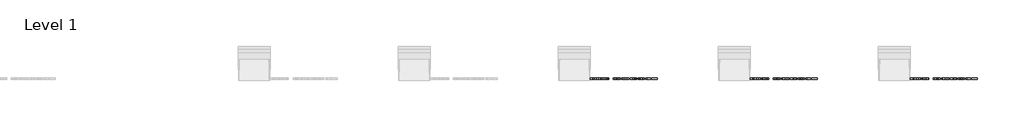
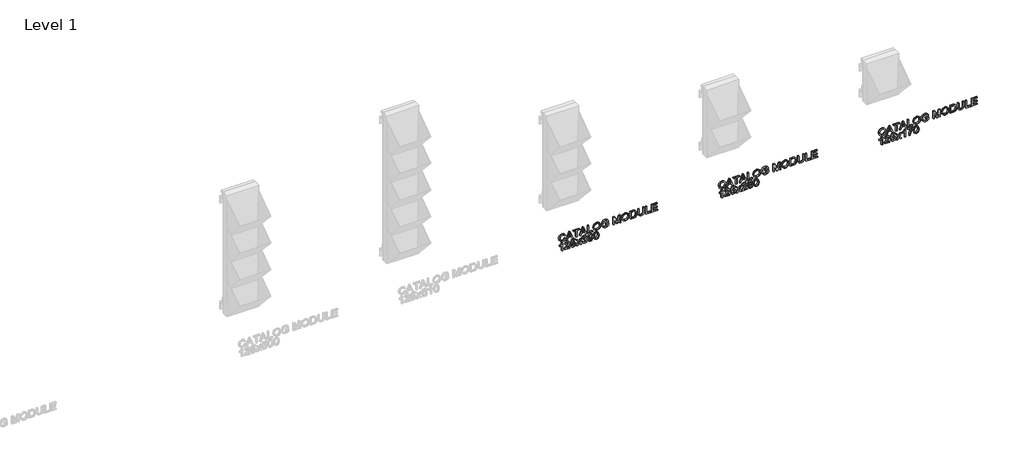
# One storey, part 5 of 5: 3 proxies.
"""IFC4 building model written with IfcOpenShell, lengths in millimetres."""

import ifcopenshell
import ifcopenshell.guid

model = None  # the IFC model being written
_history = None  # IfcOwnerHistory: only IFC2X3 demands one
_inside = {}  # id of a spatial element -> (the spatial element, [elements in it])
_under = {}  # id of a project, library or spatial element -> (it, [spatial elements below it])
_declared = {}  # id of a project -> (the project, [libraries it declares])
_typed = {}  # id of a type object -> (the type object, [elements of that type])
_made_of = {}  # id of a material, layer set ... -> (it, [elements and type objects made of it])


def new_model(schema):
    """Start an empty IFC model of exactly this schema.

    Asked for "IFC4X3", IfcOpenShell would pick the latest addendum, in which some entities
    have other attributes; the version numbers below select the first issue.
    IFC2X3 requires an IfcOwnerHistory on every rooted entity: one is made here for all.
    """
    global model, _history
    if schema == "IFC4X3":
        model = ifcopenshell.file(schema_version=(4, 3, 0, 0))
    else:
        model = ifcopenshell.file(schema=schema)
    _inside.clear()
    _under.clear()
    _declared.clear()
    _typed.clear()
    _made_of.clear()
    _history = None
    if model.schema == "IFC2X3":
        org = make("IfcOrganization", Name="unknown")
        user = make(
            "IfcPersonAndOrganization",
            ThePerson=make("IfcPerson", FamilyName="unknown"),
            TheOrganization=org,
        )
        app = make(
            "IfcApplication",
            ApplicationDeveloper=org,
            Version="unknown",
            ApplicationFullName="unknown",
            ApplicationIdentifier="unknown",
        )
        _history = make(
            "IfcOwnerHistory",
            OwningUser=user,
            OwningApplication=app,
            ChangeAction="ADDED",
            CreationDate=0,
        )
    return model


def make(cls, **values):
    """One entity of the class cls with the attributes given. An attribute that is None is left unset."""
    return model.create_entity(
        cls, **{name: value for name, value in values.items() if value is not None}
    )


def rooted(cls, **values):
    """An entity with a GlobalId (a new one), such as an element, a storey or a relation."""
    return make(cls, GlobalId=ifcopenshell.guid.new(), OwnerHistory=_history, **values)


def si_unit(unit_type, name, prefix=None):
    """IfcSIUnit, for example si_unit("LENGTHUNIT", "METRE", prefix="MILLI")."""
    return make("IfcSIUnit", UnitType=unit_type, Prefix=prefix, Name=name)


def assignment(units):
    """IfcUnitAssignment: the units of a project."""
    return None if units is None else make("IfcUnitAssignment", Units=units)


def point(xyz):
    """IfcCartesianPoint."""
    return None if xyz is None else make("IfcCartesianPoint", Coordinates=xyz)


def direction(xyz):
    """IfcDirection."""
    return None if xyz is None else make("IfcDirection", DirectionRatios=xyz)


def frame(location, z_axis=None, x_axis=None):
    """IfcAxis2Placement3D, a coordinate frame: its origin and axes. An axis left out is left unset."""
    return make(
        "IfcAxis2Placement3D",
        Location=point(location),
        Axis=direction(z_axis),
        RefDirection=direction(x_axis),
    )


def origin():
    """The frame at (0, 0, 0) with its axes left unset."""
    return frame((0.0, 0.0, 0.0))


def place(relative_to, where):
    """IfcLocalPlacement: puts the frame where relative to a parent placement (None: the world)."""
    return make(
        "IfcLocalPlacement", PlacementRelTo=relative_to, RelativePlacement=where
    )


def context(
    kind, dimensions, precision=None, world=None, true_north=None, identifier=None
):
    """IfcGeometricRepresentationContext, for example the 3D "Model" context."""
    return make(
        "IfcGeometricRepresentationContext",
        ContextIdentifier=identifier,
        ContextType=kind,
        CoordinateSpaceDimension=dimensions,
        Precision=precision,
        WorldCoordinateSystem=world,
        TrueNorth=true_north,
    )


def project(units=None, contexts=None):
    """IfcProject with its units and contexts."""
    return rooted(
        "IfcProject",
        Name="project",
        RepresentationContexts=contexts,
        UnitsInContext=assignment(units),
    )


def spatial(cls, under=None, at=None, **own):
    """A site, building, storey or space (cls), placed at a placement, below another one or the project."""
    s = rooted(cls, ObjectPlacement=at, **own)
    if under is not None:
        _under.setdefault(under.id(), (under, []))[1].append(s)
    return s


def polyline(points):
    """IfcPolyline through the points."""
    return make("IfcPolyline", Points=[point(p) for p in points])


def outline(outer, holes=None, kind="AREA"):
    """IfcArbitraryClosedProfileDef: a profile drawn as a closed curve; with holes, ...WithVoids."""
    if holes is None:
        return make("IfcArbitraryClosedProfileDef", ProfileType=kind, OuterCurve=outer)
    return make(
        "IfcArbitraryProfileDefWithVoids",
        ProfileType=kind,
        OuterCurve=outer,
        InnerCurves=holes,
    )


def extrude(swept, where, along, depth):
    """IfcExtrudedAreaSolid: the profile swept, set in the frame where, extruded along a direction by depth."""
    return make(
        "IfcExtrudedAreaSolid",
        SweptArea=swept,
        Position=where,
        ExtrudedDirection=direction(along),
        Depth=depth,
    )


def shape(context_of_items, identifier, shape_type, items):
    """IfcShapeRepresentation: the items that make up one representation, for example the "Body"."""
    return make(
        "IfcShapeRepresentation",
        ContextOfItems=context_of_items,
        RepresentationIdentifier=identifier,
        RepresentationType=shape_type,
        Items=items,
    )


def made_of(thing, what):
    """Note that an element or type object is made of a material, layer set ...; save() writes the relation."""
    if what is not None:
        _made_of.setdefault(what.id(), (what, []))[1].append(thing)
    return thing


def element(
    cls,
    number,
    at=None,
    inside=None,
    cuts=None,
    type_object=None,
    material=None,
    context=None,
    identifier="Body",
    shape_type=None,
    held_by="IfcProductDefinitionShape",
    body=None,
    shapes=None,
    **own,
):
    """One element of the class cls, such as IfcWall. Its Tag is "e" and its number.

    at: its placement. inside: the storey or other place that contains it. cuts: it is an
    opening in that element (IfcRelVoidsElement). A single representation is given by context,
    identifier, shape_type and body (its items); several are given by shapes. held_by: the class
    of the entity that holds the representations. save() writes the other relations.
    """
    e = rooted(cls, Tag="e%d" % number, ObjectPlacement=at, **own)
    if body is not None:
        shapes = [shape(context, identifier, shape_type, body)]
    if shapes is not None:
        e.Representation = make(held_by, Representations=shapes)
    if inside is not None:
        _inside.setdefault(inside.id(), (inside, []))[1].append(e)
    if cuts is not None:
        rooted(
            "IfcRelVoidsElement", RelatingBuildingElement=cuts, RelatedOpeningElement=e
        )
    if type_object is not None:
        _typed.setdefault(type_object.id(), (type_object, []))[1].append(e)
    return made_of(e, material)


def aggregate(whole, parts):
    """IfcRelAggregates: a whole, such as a stair, and the parts it consists of."""
    return rooted("IfcRelAggregates", RelatingObject=whole, RelatedObjects=parts)


def save(model, path):
    """Write the relations noted so far, then the file.

    IfcRelAggregates (storeys below a building ...), IfcRelContainedInSpatialStructure (elements
    in a storey), IfcRelDefinesByType, IfcRelAssociatesMaterial and IfcRelDeclares: one each for
    every whole, place, type object, material and project.
    """
    for whole, parts in _under.values():
        aggregate(whole, parts)
    for where, things in _inside.values():
        rooted(
            "IfcRelContainedInSpatialStructure",
            RelatedElements=things,
            RelatingStructure=where,
        )
    for kind, things in _typed.values():
        rooted("IfcRelDefinesByType", RelatedObjects=things, RelatingType=kind)
    for what, things in _made_of.values():
        rooted("IfcRelAssociatesMaterial", RelatedObjects=things, RelatingMaterial=what)
    for by, libraries in _declared.values():
        rooted("IfcRelDeclares", RelatingContext=by, RelatedDefinitions=libraries)
    model.write(path)


model = new_model("IFC4")

# Units and contexts
model_context = context("Model", 3, world=origin())
ifc_project = project(units=[si_unit("LENGTHUNIT", "METRE", prefix="MILLI")], contexts=[model_context])

# Site, building, storey
site = spatial("IfcSite", under=ifc_project)
building = spatial("IfcBuilding", under=site)
storey = spatial("IfcBuildingStorey", under=building, Name="Level 1", Elevation=0.0)

# Proxies
placement = place(None, origin())
element("IfcBuildingElementProxy", 1, Name="30mm Arial", ObjectType="30mm Arial", at=placement, inside=storey, context=model_context, shape_type="SweptSolid", body=[
    extrude(outline(polyline([(-74.1059821, 4612.4481324), (-79.6536426, 4609.2512379), (-81.5224832, 4603.486527), (-80.1502833, 4598.2883544), (-76.0042532, 4594.7493296), (-69.5148148, 4593.6125743), (-63.9156509, 4594.5727463), (-59.5893586, 4597.9020783), (-57.9780355, 4603.7955479), (-59.4311694, 4608.8870347), (-64.0628037, 4611.9772435), (-63.1651716, 4615.7443551), (-56.558011, 4611.4879604), (-54.2109238, 4603.9427007), (-56.0245821, 4596.702783), (-61.3331193, 4591.6296903), (-69.5221725, 4589.8454626), (-77.5787882, 4591.4236764), (-83.3103897, 4596.0222013), (-85.2895948, 4603.8617667), (-82.6739538, 4611.7491566), (-75.0771906, 4616.215244), (-74.1059821, 4612.4481324)])), frame((0.0, -152.7156773, 0.0), z_axis=(0.0, 1.0, 0.0), x_axis=(0.0, 0.0, 1.0)), (0.0, 0.0, 1.0), 5.0),
    extrude(outline(polyline([(-84.8187058, 4617.8854283), (-84.8187058, 4621.8659115), (-75.4009268, 4625.309287), (-75.4009268, 4637.7216255), (-84.8187058, 4641.1723586), (-84.8187058, 4645.1528418), (-54.6818128, 4633.1231005), (-54.6818128, 4629.9151696), (-84.8187058, 4617.8854283)]), holes=[polyline([(-71.6338151, 4626.6925233), (-63.5771994, 4629.6429369), (-58.4489244, 4631.519135), (-64.2246718, 4633.6307777), (-71.6338151, 4636.3457468), (-71.6338151, 4626.6925233)])]), frame((0.0, -152.7156773, 0.0), z_axis=(0.0, 1.0, 0.0), x_axis=(0.0, 0.0, 1.0)), (0.0, 0.0, 1.0), 5.0),
    extrude(outline(polyline([(-84.8187058, 4656.7116941), (-84.8187058, 4660.4788057), (-58.4489244, 4660.4788057), (-58.4489244, 4670.3674737), (-54.6818128, 4670.3674737), (-54.6818128, 4646.823026), (-58.4489244, 4646.823026), (-58.4489244, 4656.7116941), (-84.8187058, 4656.7116941)])), frame((0.0, -152.7156773, 0.0), z_axis=(0.0, 1.0, 0.0), x_axis=(0.0, 0.0, 1.0)), (0.0, 0.0, 1.0), 5.0),
    extrude(outline(polyline([(-84.8187058, 4671.0958801), (-84.8187058, 4675.0763633), (-75.4009268, 4678.5197388), (-75.4009268, 4690.9320773), (-84.8187058, 4694.3828104), (-84.8187058, 4698.3632936), (-54.6818128, 4686.3335523), (-54.6818128, 4683.1256213), (-84.8187058, 4671.0958801)]), holes=[polyline([(-71.6338151, 4679.9029751), (-63.5771994, 4682.8533887), (-58.4489244, 4684.7295868), (-64.2246718, 4686.8412295), (-71.6338151, 4689.5561986), (-71.6338151, 4679.9029751)])]), frame((0.0, -152.7156773, 0.0), z_axis=(0.0, 1.0, 0.0), x_axis=(0.0, 0.0, 1.0)), (0.0, 0.0, 1.0), 5.0),
    extrude(outline(polyline([(-84.8187058, 4702.3879226), (-84.8187058, 4721.2234808), (-81.0515942, 4721.2234808), (-81.0515942, 4706.1550342), (-54.6818128, 4706.1550342), (-54.6818128, 4702.3879226), (-84.8187058, 4702.3879226)])), frame((0.0, -152.7156773, 0.0), z_axis=(0.0, 1.0, 0.0), x_axis=(0.0, 0.0, 1.0)), (0.0, 0.0, 1.0), 5.0),
    extrude(outline(polyline([(-70.1475719, 4724.0488145), (-77.6486858, 4725.7705022), (-83.2404921, 4730.8325585), (-85.2895948, 4738.4109276), (-83.4354695, 4745.7060275), (-77.9761007, 4750.9299519), (-69.8017628, 4752.7730407), (-61.7377895, 4751.0219224), (-56.1974866, 4745.9304355), (-54.2109238, 4738.4330005), (-58.4415668, 4728.0660859), (-70.1475719, 4724.0488145)]), holes=[polyline([(-70.1843601, 4727.8159261), (-60.7923327, 4730.9576383), (-57.9780355, 4738.4550734), (-59.438527, 4743.9843398), (-63.5551265, 4747.7256997), (-69.7723322, 4749.005929), (-78.461705, 4746.0150484), (-81.5224832, 4738.3888546), (-78.4911355, 4730.8288796), (-70.1843601, 4727.8159261)])]), frame((0.0, -152.7156773, 0.0), z_axis=(0.0, 1.0, 0.0), x_axis=(0.0, 0.0, 1.0)), (0.0, 0.0, 1.0), 5.0),
    extrude(outline(polyline([(-73.046482, 4772.0794878), (-73.046482, 4780.5554889), (-78.4911355, 4780.5554889), (-80.5549535, 4776.7405526), (-81.5224832, 4771.5865259), (-80.238575, 4765.8438879), (-76.3095953, 4761.7236096), (-69.7429017, 4760.3072639), (-63.8273592, 4761.4844863), (-60.9247703, 4763.4232244), (-58.7910547, 4766.7047318), (-57.9780355, 4771.5276648), (-58.7321936, 4775.7619865), (-60.7408293, 4778.6976849), (-64.2246718, 4780.4156938), (-63.2461056, 4783.8884998), (-58.2613046, 4781.6113103), (-55.2814605, 4777.4799955), (-54.2109238, 4771.5865259), (-56.0576915, 4763.6549901), (-61.7046801, 4758.3758834), (-69.8974121, 4756.5401523), (-77.909882, 4758.3832411), (-83.3950025, 4763.8426099), (-85.2895948, 4771.8881891), (-84.0976571, 4778.2782994), (-80.5439171, 4784.3226006), (-69.2793704, 4784.3226006), (-69.2793704, 4772.0794878), (-73.046482, 4772.0794878)])), frame((0.0, -152.7156773, 0.0), z_axis=(0.0, 1.0, 0.0), x_axis=(0.0, 0.0, 1.0)), (0.0, 0.0, 1.0), 5.0),
    extrude(outline(polyline([(-84.8187058, 4802.2163808), (-84.8187058, 4805.9834924), (-58.4489244, 4805.9834924), (-84.8187058, 4813.5545039), (-84.8187058, 4818.660706), (-58.4489244, 4826.2317175), (-84.8187058, 4826.2317175), (-84.8187058, 4829.9988291), (-54.6818128, 4829.9988291), (-54.6818128, 4823.5167483), (-75.5554372, 4817.4540531), (-80.3599761, 4816.1076049), (-75.9233192, 4814.8641638), (-54.6818128, 4808.6984616), (-54.6818128, 4802.2163808), (-84.8187058, 4802.2163808)])), frame((0.0, -152.7156773, 0.0), z_axis=(0.0, 1.0, 0.0), x_axis=(0.0, 0.0, 1.0)), (0.0, 0.0, 1.0), 5.0),
    extrude(outline(polyline([(-70.1475719, 4835.1786076), (-77.6486858, 4836.9002953), (-83.2404921, 4841.9623516), (-85.2895948, 4849.5407207), (-83.4354695, 4856.8358206), (-77.9761007, 4862.059745), (-69.8017628, 4863.9028338), (-61.7377895, 4862.1517155), (-56.1974866, 4857.0602287), (-54.2109238, 4849.5627936), (-58.4415668, 4839.195879), (-70.1475719, 4835.1786076)]), holes=[polyline([(-70.1843601, 4838.9457192), (-60.7923327, 4842.0874314), (-57.9780355, 4849.5848665), (-59.438527, 4855.1141329), (-63.5551265, 4858.8554928), (-69.7723322, 4860.1357221), (-78.461705, 4857.1448415), (-81.5224832, 4849.5186478), (-78.4911355, 4841.9586727), (-70.1843601, 4838.9457192)])]), frame((0.0, -152.7156773, 0.0), z_axis=(0.0, 1.0, 0.0), x_axis=(0.0, 0.0, 1.0)), (0.0, 0.0, 1.0), 5.0),
    extrude(outline(polyline([(-84.8187058, 4869.0826123), (-84.8187058, 4879.979277), (-84.3036711, 4884.8242828), (-82.7916761, 4888.4258476), (-80.0583128, 4891.1776049), (-75.6694806, 4893.2377441), (-69.5883912, 4894.0397268), (-62.42205, 4892.8551468), (-57.271702, 4889.2866914), (-55.1159136, 4884.8573922), (-54.6818128, 4879.4789574), (-54.6818128, 4869.0826123), (-84.8187058, 4869.0826123)]), holes=[polyline([(-81.0515942, 4872.8497239), (-58.4489244, 4872.8497239), (-58.4489244, 4879.4127387), (-59.0522509, 4884.7543852), (-62.3926194, 4888.6649709), (-69.5295301, 4890.2726152), (-75.2280222, 4889.4522383), (-78.9693821, 4887.1603335), (-80.5071289, 4884.3644303), (-81.0515942, 4879.5157456), (-81.0515942, 4872.8497239)])]), frame((0.0, -152.7156773, 0.0), z_axis=(0.0, 1.0, 0.0), x_axis=(0.0, 0.0, 1.0)), (0.0, 0.0, 1.0), 5.0),
    extrude(outline(polyline([(-54.6818128, 4918.9968414), (-71.9354784, 4918.9968414), (-79.543278, 4917.0912126), (-81.5224832, 4910.7121388), (-80.5218441, 4906.2828396), (-77.6781163, 4903.7297386), (-71.9354784, 4902.9866169), (-54.6818128, 4902.9866169), (-54.6818128, 4899.2195053), (-72.0679159, 4899.2195053), (-79.6131756, 4900.3636183), (-83.8327821, 4904.1822334), (-85.2895948, 4911.0653055), (-83.6157317, 4918.0550635), (-79.2747242, 4921.741241), (-72.0679159, 4922.763953), (-54.6818128, 4922.763953), (-54.6818128, 4918.9968414)])), frame((0.0, -152.7156773, 0.0), z_axis=(0.0, 1.0, 0.0), x_axis=(0.0, 0.0, 1.0)), (0.0, 0.0, 1.0), 5.0),
    extrude(outline(polyline([(-84.8187058, 4929.3563983), (-84.8187058, 4948.1919565), (-81.0515942, 4948.1919565), (-81.0515942, 4933.12351), (-54.6818128, 4933.12351), (-54.6818128, 4929.3563983), (-84.8187058, 4929.3563983)])), frame((0.0, -152.7156773, 0.0), z_axis=(0.0, 1.0, 0.0), x_axis=(0.0, 0.0, 1.0)), (0.0, 0.0, 1.0), 5.0),
    extrude(outline(polyline([(-84.8187058, 4952.4299571), (-84.8187058, 4974.5617379), (-81.0515942, 4974.5617379), (-81.0515942, 4956.1970687), (-71.1629262, 4956.1970687), (-71.1629262, 4973.149071), (-67.3958146, 4973.149071), (-67.3958146, 4956.1970687), (-58.4489244, 4956.1970687), (-58.4489244, 4974.090849), (-54.6818128, 4974.090849), (-54.6818128, 4952.4299571), (-84.8187058, 4952.4299571)])), frame((0.0, -152.7156773, 0.0), z_axis=(0.0, 1.0, 0.0), x_axis=(0.0, 0.0, 1.0)), (0.0, 0.0, 1.0), 5.0),
    extrude(outline(polyline([(-121.4111512, 4603.9721313), (-91.2742582, 4603.9721313), (-91.2742582, 4601.5441101), (-95.2841719, 4598.1927051), (-98.8084814, 4592.6707964), (-102.3695791, 4592.6707964), (-100.4676292, 4596.6365643), (-97.9255646, 4600.2050196), (-121.4111512, 4600.2050196), (-121.4111512, 4603.9721313)])), frame((0.0, -152.7156773, 0.0), z_axis=(0.0, 1.0, 0.0), x_axis=(0.0, 0.0, 1.0)), (0.0, 0.0, 1.0), 5.0),
    extrude(outline(polyline([(-117.6440396, 4632.2254685), (-117.6440396, 4617.4292546), (-115.7273744, 4619.1288695), (-112.1037367, 4623.4625194), (-106.9423523, 4628.8593482), (-103.2488171, 4631.0850343), (-99.6766829, 4631.7545795), (-93.687564, 4629.2713761), (-91.2742582, 4622.5280991), (-93.4447619, 4615.806895), (-99.7502593, 4612.9190214), (-100.2211483, 4616.686133), (-96.4172484, 4618.2717044), (-95.0413698, 4622.447165), (-96.4503578, 4626.4534), (-99.9047698, 4627.9874679), (-104.1722009, 4626.3614295), (-110.4482677, 4619.8572758), (-114.815027, 4615.1410286), (-118.8139043, 4612.8528026), (-121.4111512, 4612.4481324), (-121.4111512, 4632.2254685), (-117.6440396, 4632.2254685)])), frame((0.0, -152.7156773, 0.0), z_axis=(0.0, 1.0, 0.0), x_axis=(0.0, 0.0, 1.0)), (0.0, 0.0, 1.0), 5.0),
    extrude(outline(polyline([(-113.406039, 4635.9925801), (-119.5607048, 4638.9319573), (-121.8820402, 4645.5795849), (-118.269439, 4653.4081138), (-111.2796811, 4655.7699162), (-104.334069, 4653.1469175), (-101.6338151, 4646.7053038), (-103.8116766, 4641.1944315), (-95.5122587, 4642.8057547), (-95.5122587, 4654.3572493), (-91.7451471, 4654.3572493), (-91.7451471, 4639.7596917), (-107.2844826, 4636.4634691), (-107.7553715, 4640.2305807), (-106.0557567, 4642.3459022), (-105.4009268, 4645.6531613), (-107.0416805, 4650.4245908), (-111.5151255, 4652.0028045), (-116.3086279, 4650.317905), (-118.1149285, 4645.5943002), (-116.8163051, 4641.6579628), (-112.93515, 4639.7596917), (-113.406039, 4635.9925801)])), frame((0.0, -152.7156773, 0.0), z_axis=(0.0, 1.0, 0.0), x_axis=(0.0, 0.0, 1.0)), (0.0, 0.0, 1.0), 5.0),
    extrude(outline(polyline([(-121.4111512, 4657.653472), (-121.4111512, 4662.1857782), (-114.7230565, 4668.7561506), (-121.4111512, 4673.3693908), (-121.4111512, 4677.901697), (-110.2863997, 4670.2350362), (-99.2793704, 4678.1960026), (-99.2793704, 4673.6636964), (-105.0330448, 4669.4992722), (-107.0784687, 4668.0203866), (-104.5768711, 4666.3134142), (-99.2793704, 4662.6566671), (-99.2793704, 4658.1243609), (-110.2863997, 4665.70273), (-121.4111512, 4657.653472)])), frame((0.0, -152.7156773, 0.0), z_axis=(0.0, 1.0, 0.0), x_axis=(0.0, 0.0, 1.0)), (0.0, 0.0, 1.0), 5.0),
    extrude(outline(polyline([(-113.406039, 4680.2561418), (-119.5202377, 4683.2507012), (-121.8820402, 4689.8578618), (-119.1155675, 4697.149283), (-112.3759694, 4700.0334778), (-107.4757812, 4698.5913804), (-104.9006073, 4694.4858173), (-102.4063673, 4697.5760261), (-98.9335613, 4698.620811), (-95.1333403, 4697.5208438), (-92.3080066, 4694.3423434), (-91.2742582, 4689.7990007), (-93.3711855, 4683.8098818), (-99.2793704, 4680.7270307), (-99.7502593, 4684.4941424), (-96.2185922, 4686.34091), (-95.0413698, 4689.9314382), (-96.2075557, 4693.4778207), (-99.1542905, 4694.8536993), (-102.4799437, 4692.9554282), (-103.517371, 4688.077313), (-107.2844826, 4687.6579275), (-106.8724548, 4690.2993202), (-108.4138803, 4694.5814667), (-112.3097506, 4696.2663662), (-116.4447443, 4694.5667514), (-118.1149285, 4689.9902994), (-116.9009179, 4686.1017867), (-112.93515, 4684.0232534), (-113.406039, 4680.2561418)])), frame((0.0, -152.7156773, 0.0), z_axis=(0.0, 1.0, 0.0), x_axis=(0.0, 0.0, 1.0)), (0.0, 0.0, 1.0), 5.0),
    extrude(outline(polyline([(-113.8769279, 4703.8005895), (-119.781434, 4706.5008433), (-121.8820402, 4712.2913059), (-120.1014913, 4718.1075203), (-114.918034, 4721.8488801), (-105.7688088, 4723.1070366), (-97.3369534, 4721.8452013), (-92.8487931, 4718.1516661), (-91.2742582, 4712.7842678), (-94.0333731, 4706.0262755), (-101.3174366, 4703.3297005), (-108.3734133, 4705.9011957), (-111.0515942, 4712.1956566), (-109.9553059, 4716.3269714), (-107.8363056, 4719.3619979), (-112.2067437, 4718.8175325), (-115.4808934, 4717.5851278), (-117.3975586, 4715.517631), (-118.1149285, 4712.4678893), (-117.0002461, 4709.2599583), (-113.406039, 4707.5677011), (-113.8769279, 4703.8005895)]), holes=[polyline([(-101.2291449, 4719.3399249), (-105.6768383, 4717.6366313), (-107.2844826, 4713.2919449), (-105.6768383, 4708.7669964), (-101.5013776, 4707.0968121), (-96.8403127, 4708.8626457), (-95.0413698, 4713.3949519), (-96.711554, 4717.7138865), (-101.2291449, 4719.3399249)])]), frame((0.0, -152.7156773, 0.0), z_axis=(0.0, 1.0, 0.0), x_axis=(0.0, 0.0, 1.0)), (0.0, 0.0, 1.0), 5.0),
    extrude(outline(polyline([(-106.5855068, 4726.4032592), (-119.0125606, 4729.4051763), (-121.8820402, 4736.2919273), (-120.23025, 4741.8064784), (-115.2196972, 4745.084307), (-106.5855068, 4746.1805953), (-99.5037784, 4745.4963348), (-95.0450486, 4743.7305012), (-92.2454666, 4740.6917959), (-91.2742582, 4736.2919273), (-92.9150119, 4730.7994491), (-97.9145282, 4727.5105841), (-106.5855068, 4726.4032592)]), holes=[polyline([(-106.5781492, 4730.1703709), (-97.0573631, 4731.9950656), (-95.0413698, 4736.2477814), (-97.3295958, 4740.7065112), (-106.5781492, 4742.4134837), (-115.9260307, 4740.6476501), (-118.1149285, 4736.2919273), (-115.9333883, 4731.9362045), (-106.5781492, 4730.1703709)])]), frame((0.0, -152.7156773, 0.0), z_axis=(0.0, 1.0, 0.0), x_axis=(0.0, 0.0, 1.0)), (0.0, 0.0, 1.0), 5.0),
])
element("IfcBuildingElementProxy", 2, Name="30mm Arial", ObjectType="30mm Arial", at=placement, inside=storey, context=model_context, shape_type="SweptSolid", body=[
    extrude(outline(polyline([(-74.1059821, 5237.4481324), (-79.6536426, 5234.2512379), (-81.5224832, 5228.486527), (-80.1502833, 5223.2883544), (-76.0042532, 5219.7493296), (-69.5148148, 5218.6125743), (-63.9156509, 5219.5727463), (-59.5893586, 5222.9020783), (-57.9780355, 5228.7955479), (-59.4311694, 5233.8870347), (-64.0628037, 5236.9772435), (-63.1651716, 5240.7443551), (-56.558011, 5236.4879604), (-54.2109238, 5228.9427007), (-56.0245821, 5221.702783), (-61.3331193, 5216.6296903), (-69.5221725, 5214.8454626), (-77.5787882, 5216.4236764), (-83.3103897, 5221.0222013), (-85.2895948, 5228.8617667), (-82.6739538, 5236.7491566), (-75.0771906, 5241.215244), (-74.1059821, 5237.4481324)])), frame((0.0, -152.7156773, 0.0), z_axis=(0.0, 1.0, 0.0), x_axis=(0.0, 0.0, 1.0)), (0.0, 0.0, 1.0), 5.0),
    extrude(outline(polyline([(-84.8187058, 5242.8854283), (-84.8187058, 5246.8659115), (-75.4009268, 5250.309287), (-75.4009268, 5262.7216255), (-84.8187058, 5266.1723586), (-84.8187058, 5270.1528418), (-54.6818128, 5258.1231005), (-54.6818128, 5254.9151695), (-84.8187058, 5242.8854283)]), holes=[polyline([(-71.6338151, 5251.6925233), (-63.5771994, 5254.6429369), (-58.4489244, 5256.519135), (-64.2246718, 5258.6307777), (-71.6338151, 5261.3457468), (-71.6338151, 5251.6925233)])]), frame((0.0, -152.7156773, 0.0), z_axis=(0.0, 1.0, 0.0), x_axis=(0.0, 0.0, 1.0)), (0.0, 0.0, 1.0), 5.0),
    extrude(outline(polyline([(-84.8187058, 5281.7116941), (-84.8187058, 5285.4788057), (-58.4489244, 5285.4788057), (-58.4489244, 5295.3674737), (-54.6818128, 5295.3674737), (-54.6818128, 5271.823026), (-58.4489244, 5271.823026), (-58.4489244, 5281.7116941), (-84.8187058, 5281.7116941)])), frame((0.0, -152.7156773, 0.0), z_axis=(0.0, 1.0, 0.0), x_axis=(0.0, 0.0, 1.0)), (0.0, 0.0, 1.0), 5.0),
    extrude(outline(polyline([(-84.8187058, 5296.0958801), (-84.8187058, 5300.0763633), (-75.4009268, 5303.5197388), (-75.4009268, 5315.9320773), (-84.8187058, 5319.3828104), (-84.8187058, 5323.3632936), (-54.6818128, 5311.3335523), (-54.6818128, 5308.1256213), (-84.8187058, 5296.0958801)]), holes=[polyline([(-71.6338151, 5304.9029751), (-63.5771994, 5307.8533887), (-58.4489244, 5309.7295868), (-64.2246718, 5311.8412295), (-71.6338151, 5314.5561986), (-71.6338151, 5304.9029751)])]), frame((0.0, -152.7156773, 0.0), z_axis=(0.0, 1.0, 0.0), x_axis=(0.0, 0.0, 1.0)), (0.0, 0.0, 1.0), 5.0),
    extrude(outline(polyline([(-84.8187058, 5327.3879226), (-84.8187058, 5346.2234808), (-81.0515942, 5346.2234808), (-81.0515942, 5331.1550342), (-54.6818128, 5331.1550342), (-54.6818128, 5327.3879226), (-84.8187058, 5327.3879226)])), frame((0.0, -152.7156773, 0.0), z_axis=(0.0, 1.0, 0.0), x_axis=(0.0, 0.0, 1.0)), (0.0, 0.0, 1.0), 5.0),
    extrude(outline(polyline([(-70.1475719, 5349.0488145), (-77.6486858, 5350.7705022), (-83.2404921, 5355.8325585), (-85.2895948, 5363.4109276), (-83.4354695, 5370.7060275), (-77.9761007, 5375.9299519), (-69.8017628, 5377.7730407), (-61.7377895, 5376.0219224), (-56.1974866, 5370.9304355), (-54.2109238, 5363.4330005), (-58.4415668, 5353.0660859), (-70.1475719, 5349.0488145)]), holes=[polyline([(-70.1843601, 5352.8159261), (-60.7923327, 5355.9576383), (-57.9780355, 5363.4550734), (-59.438527, 5368.9843398), (-63.5551265, 5372.7256997), (-69.7723322, 5374.005929), (-78.461705, 5371.0150484), (-81.5224832, 5363.3888546), (-78.4911355, 5355.8288796), (-70.1843601, 5352.8159261)])]), frame((0.0, -152.7156773, 0.0), z_axis=(0.0, 1.0, 0.0), x_axis=(0.0, 0.0, 1.0)), (0.0, 0.0, 1.0), 5.0),
    extrude(outline(polyline([(-73.046482, 5397.0794878), (-73.046482, 5405.5554889), (-78.4911355, 5405.5554889), (-80.5549535, 5401.7405526), (-81.5224832, 5396.5865259), (-80.238575, 5390.8438879), (-76.3095953, 5386.7236096), (-69.7429017, 5385.3072639), (-63.8273592, 5386.4844863), (-60.9247703, 5388.4232244), (-58.7910547, 5391.7047318), (-57.9780355, 5396.5276648), (-58.7321936, 5400.7619865), (-60.7408293, 5403.6976849), (-64.2246718, 5405.4156938), (-63.2461056, 5408.8884998), (-58.2613046, 5406.6113103), (-55.2814605, 5402.4799955), (-54.2109238, 5396.5865259), (-56.0576915, 5388.6549901), (-61.7046801, 5383.3758834), (-69.8974121, 5381.5401523), (-77.909882, 5383.3832411), (-83.3950025, 5388.8426099), (-85.2895948, 5396.8881891), (-84.0976571, 5403.2782994), (-80.5439171, 5409.3226006), (-69.2793704, 5409.3226006), (-69.2793704, 5397.0794878), (-73.046482, 5397.0794878)])), frame((0.0, -152.7156773, 0.0), z_axis=(0.0, 1.0, 0.0), x_axis=(0.0, 0.0, 1.0)), (0.0, 0.0, 1.0), 5.0),
    extrude(outline(polyline([(-84.8187058, 5427.2163808), (-84.8187058, 5430.9834924), (-58.4489244, 5430.9834924), (-84.8187058, 5438.5545039), (-84.8187058, 5443.660706), (-58.4489244, 5451.2317175), (-84.8187058, 5451.2317175), (-84.8187058, 5454.9988291), (-54.6818128, 5454.9988291), (-54.6818128, 5448.5167483), (-75.5554372, 5442.4540531), (-80.3599761, 5441.1076049), (-75.9233192, 5439.8641638), (-54.6818128, 5433.6984616), (-54.6818128, 5427.2163808), (-84.8187058, 5427.2163808)])), frame((0.0, -152.7156773, 0.0), z_axis=(0.0, 1.0, 0.0), x_axis=(0.0, 0.0, 1.0)), (0.0, 0.0, 1.0), 5.0),
    extrude(outline(polyline([(-70.1475719, 5460.1786076), (-77.6486858, 5461.9002953), (-83.2404921, 5466.9623516), (-85.2895948, 5474.5407207), (-83.4354695, 5481.8358206), (-77.9761007, 5487.059745), (-69.8017628, 5488.9028338), (-61.7377895, 5487.1517155), (-56.1974866, 5482.0602287), (-54.2109238, 5474.5627936), (-58.4415668, 5464.195879), (-70.1475719, 5460.1786076)]), holes=[polyline([(-70.1843601, 5463.9457192), (-60.7923327, 5467.0874314), (-57.9780355, 5474.5848665), (-59.438527, 5480.1141329), (-63.5551265, 5483.8554928), (-69.7723322, 5485.1357221), (-78.461705, 5482.1448415), (-81.5224832, 5474.5186478), (-78.4911355, 5466.9586727), (-70.1843601, 5463.9457192)])]), frame((0.0, -152.7156773, 0.0), z_axis=(0.0, 1.0, 0.0), x_axis=(0.0, 0.0, 1.0)), (0.0, 0.0, 1.0), 5.0),
    extrude(outline(polyline([(-84.8187058, 5494.0826123), (-84.8187058, 5504.979277), (-84.3036711, 5509.8242828), (-82.7916761, 5513.4258476), (-80.0583128, 5516.1776049), (-75.6694806, 5518.2377441), (-69.5883912, 5519.0397268), (-62.42205, 5517.8551468), (-57.271702, 5514.2866914), (-55.1159136, 5509.8573922), (-54.6818128, 5504.4789574), (-54.6818128, 5494.0826123), (-84.8187058, 5494.0826123)]), holes=[polyline([(-81.0515942, 5497.8497239), (-58.4489244, 5497.8497239), (-58.4489244, 5504.4127387), (-59.0522509, 5509.7543852), (-62.3926194, 5513.6649709), (-69.5295301, 5515.2726152), (-75.2280222, 5514.4522383), (-78.9693821, 5512.1603335), (-80.5071289, 5509.3644303), (-81.0515942, 5504.5157456), (-81.0515942, 5497.8497239)])]), frame((0.0, -152.7156773, 0.0), z_axis=(0.0, 1.0, 0.0), x_axis=(0.0, 0.0, 1.0)), (0.0, 0.0, 1.0), 5.0),
    extrude(outline(polyline([(-54.6818128, 5543.9968414), (-71.9354784, 5543.9968414), (-79.543278, 5542.0912126), (-81.5224832, 5535.7121388), (-80.5218441, 5531.2828396), (-77.6781163, 5528.7297386), (-71.9354784, 5527.9866169), (-54.6818128, 5527.9866169), (-54.6818128, 5524.2195053), (-72.0679159, 5524.2195053), (-79.6131756, 5525.3636183), (-83.8327821, 5529.1822334), (-85.2895948, 5536.0653055), (-83.6157317, 5543.0550635), (-79.2747242, 5546.741241), (-72.0679159, 5547.763953), (-54.6818128, 5547.763953), (-54.6818128, 5543.9968414)])), frame((0.0, -152.7156773, 0.0), z_axis=(0.0, 1.0, 0.0), x_axis=(0.0, 0.0, 1.0)), (0.0, 0.0, 1.0), 5.0),
    extrude(outline(polyline([(-84.8187058, 5554.3563983), (-84.8187058, 5573.1919565), (-81.0515942, 5573.1919565), (-81.0515942, 5558.12351), (-54.6818128, 5558.12351), (-54.6818128, 5554.3563983), (-84.8187058, 5554.3563983)])), frame((0.0, -152.7156773, 0.0), z_axis=(0.0, 1.0, 0.0), x_axis=(0.0, 0.0, 1.0)), (0.0, 0.0, 1.0), 5.0),
    extrude(outline(polyline([(-84.8187058, 5577.4299571), (-84.8187058, 5599.5617379), (-81.0515942, 5599.5617379), (-81.0515942, 5581.1970687), (-71.1629262, 5581.1970687), (-71.1629262, 5598.149071), (-67.3958146, 5598.149071), (-67.3958146, 5581.1970687), (-58.4489244, 5581.1970687), (-58.4489244, 5599.090849), (-54.6818128, 5599.090849), (-54.6818128, 5577.4299571), (-84.8187058, 5577.4299571)])), frame((0.0, -152.7156773, 0.0), z_axis=(0.0, 1.0, 0.0), x_axis=(0.0, 0.0, 1.0)), (0.0, 0.0, 1.0), 5.0),
    extrude(outline(polyline([(-121.4111512, 5228.9721313), (-91.2742582, 5228.9721313), (-91.2742582, 5226.5441101), (-95.2841719, 5223.1927051), (-98.8084814, 5217.6707964), (-102.3695791, 5217.6707964), (-100.4676292, 5221.6365643), (-97.9255646, 5225.2050196), (-121.4111512, 5225.2050196), (-121.4111512, 5228.9721313)])), frame((0.0, -152.7156773, 0.0), z_axis=(0.0, 1.0, 0.0), x_axis=(0.0, 0.0, 1.0)), (0.0, 0.0, 1.0), 5.0),
    extrude(outline(polyline([(-117.6440396, 5257.2254685), (-117.6440396, 5242.4292546), (-115.7273744, 5244.1288695), (-112.1037367, 5248.4625194), (-106.9423523, 5253.8593482), (-103.2488171, 5256.0850343), (-99.6766829, 5256.7545795), (-93.687564, 5254.2713761), (-91.2742582, 5247.5280991), (-93.4447619, 5240.806895), (-99.7502593, 5237.9190214), (-100.2211483, 5241.686133), (-96.4172484, 5243.2717044), (-95.0413698, 5247.447165), (-96.4503578, 5251.4534), (-99.9047698, 5252.9874679), (-104.1722009, 5251.3614295), (-110.4482677, 5244.8572758), (-114.815027, 5240.1410286), (-118.8139043, 5237.8528026), (-121.4111512, 5237.4481324), (-121.4111512, 5257.2254685), (-117.6440396, 5257.2254685)])), frame((0.0, -152.7156773, 0.0), z_axis=(0.0, 1.0, 0.0), x_axis=(0.0, 0.0, 1.0)), (0.0, 0.0, 1.0), 5.0),
    extrude(outline(polyline([(-113.406039, 5260.9925801), (-119.5607048, 5263.9319573), (-121.8820402, 5270.5795849), (-118.269439, 5278.4081138), (-111.2796811, 5280.7699162), (-104.334069, 5278.1469175), (-101.6338151, 5271.7053038), (-103.8116766, 5266.1944315), (-95.5122587, 5267.8057547), (-95.5122587, 5279.3572493), (-91.7451471, 5279.3572493), (-91.7451471, 5264.7596917), (-107.2844826, 5261.4634691), (-107.7553715, 5265.2305807), (-106.0557567, 5267.3459022), (-105.4009268, 5270.6531613), (-107.0416805, 5275.4245908), (-111.5151255, 5277.0028045), (-116.3086279, 5275.317905), (-118.1149285, 5270.5943002), (-116.8163051, 5266.6579628), (-112.93515, 5264.7596917), (-113.406039, 5260.9925801)])), frame((0.0, -152.7156773, 0.0), z_axis=(0.0, 1.0, 0.0), x_axis=(0.0, 0.0, 1.0)), (0.0, 0.0, 1.0), 5.0),
    extrude(outline(polyline([(-121.4111512, 5282.653472), (-121.4111512, 5287.1857782), (-114.7230565, 5293.7561506), (-121.4111512, 5298.3693908), (-121.4111512, 5302.901697), (-110.2863997, 5295.2350362), (-99.2793704, 5303.1960026), (-99.2793704, 5298.6636964), (-105.0330448, 5294.4992722), (-107.0784687, 5293.0203866), (-104.5768711, 5291.3134142), (-99.2793704, 5287.6566671), (-99.2793704, 5283.1243609), (-110.2863997, 5290.70273), (-121.4111512, 5282.653472)])), frame((0.0, -152.7156773, 0.0), z_axis=(0.0, 1.0, 0.0), x_axis=(0.0, 0.0, 1.0)), (0.0, 0.0, 1.0), 5.0),
    extrude(outline(polyline([(-117.6440396, 5324.5625889), (-117.6440396, 5309.766375), (-115.7273744, 5311.4659898), (-112.1037367, 5315.7996398), (-106.9423523, 5321.1964686), (-103.2488171, 5323.4221547), (-99.6766829, 5324.0916999), (-93.687564, 5321.6084965), (-91.2742582, 5314.8652195), (-93.4447619, 5308.1440154), (-99.7502593, 5305.2561418), (-100.2211483, 5309.0232534), (-96.4172484, 5310.6088248), (-95.0413698, 5314.7842854), (-96.4503578, 5318.7905204), (-99.9047698, 5320.3245883), (-104.1722009, 5318.6985499), (-110.4482677, 5312.1943962), (-114.815027, 5307.478149), (-118.8139043, 5305.189923), (-121.4111512, 5304.7852528), (-121.4111512, 5324.5625889), (-117.6440396, 5324.5625889)])), frame((0.0, -152.7156773, 0.0), z_axis=(0.0, 1.0, 0.0), x_axis=(0.0, 0.0, 1.0)), (0.0, 0.0, 1.0), 5.0),
    extrude(outline(polyline([(-104.8123156, 5333.8184999), (-107.5493576, 5329.7570826), (-112.5378375, 5328.3297005), (-119.207538, 5331.0520273), (-121.8820402, 5338.2183685), (-119.2185745, 5345.3847098), (-112.6408444, 5348.1070366), (-107.766408, 5346.7348367), (-104.8123156, 5342.7286018), (-102.4836225, 5346.0652915), (-98.9335613, 5347.1652587), (-93.503623, 5344.6930917), (-91.2742582, 5338.1668651), (-93.4521196, 5331.6994996), (-98.8305543, 5329.2714784), (-102.4725861, 5330.3861609), (-104.8123156, 5333.8184999)]), holes=[polyline([(-98.9409189, 5333.03859), (-96.1891616, 5334.3960746), (-95.0413698, 5338.2183685), (-96.2149133, 5342.029626), (-99.1101447, 5343.398147), (-101.9060478, 5342.0737718), (-103.046482, 5338.2625144), (-101.8986902, 5334.3740017), (-98.9409189, 5333.03859)]), polyline([(-112.4054, 5332.0968121), (-108.4102015, 5333.6897412), (-106.8135936, 5338.1227192), (-108.4322744, 5342.684456), (-112.5231222, 5344.3399249), (-116.5367148, 5342.7359594), (-118.1149285, 5338.2477991), (-117.3644493, 5334.9515764), (-115.2417701, 5332.7258903), (-112.4054, 5332.0968121)])]), frame((0.0, -152.7156773, 0.0), z_axis=(0.0, 1.0, 0.0), x_axis=(0.0, 0.0, 1.0)), (0.0, 0.0, 1.0), 5.0),
    extrude(outline(polyline([(-106.5855068, 5351.4032592), (-119.0125606, 5354.4051763), (-121.8820402, 5361.2919273), (-120.23025, 5366.8064784), (-115.2196972, 5370.084307), (-106.5855068, 5371.1805953), (-99.5037784, 5370.4963348), (-95.0450486, 5368.7305012), (-92.2454666, 5365.6917959), (-91.2742582, 5361.2919273), (-92.9150119, 5355.7994491), (-97.9145282, 5352.5105841), (-106.5855068, 5351.4032592)]), holes=[polyline([(-106.5781492, 5355.1703709), (-97.0573631, 5356.9950656), (-95.0413698, 5361.2477814), (-97.3295958, 5365.7065112), (-106.5781492, 5367.4134837), (-115.9260307, 5365.6476501), (-118.1149285, 5361.2919273), (-115.9333883, 5356.9362045), (-106.5781492, 5355.1703709)])]), frame((0.0, -152.7156773, 0.0), z_axis=(0.0, 1.0, 0.0), x_axis=(0.0, 0.0, 1.0)), (0.0, 0.0, 1.0), 5.0),
])
element("IfcBuildingElementProxy", 3, Name="30mm Arial", ObjectType="30mm Arial", at=placement, inside=storey, context=model_context, shape_type="SweptSolid", body=[
    extrude(outline(polyline([(-74.1059821, 5862.4481324), (-79.6536426, 5859.2512379), (-81.5224832, 5853.486527), (-80.1502833, 5848.2883544), (-76.0042532, 5844.7493296), (-69.5148148, 5843.6125743), (-63.9156509, 5844.5727463), (-59.5893586, 5847.9020783), (-57.9780355, 5853.7955479), (-59.4311694, 5858.8870347), (-64.0628037, 5861.9772435), (-63.1651716, 5865.7443551), (-56.558011, 5861.4879604), (-54.2109238, 5853.9427007), (-56.0245821, 5846.702783), (-61.3331193, 5841.6296903), (-69.5221725, 5839.8454626), (-77.5787882, 5841.4236764), (-83.3103897, 5846.0222013), (-85.2895948, 5853.8617667), (-82.6739538, 5861.7491566), (-75.0771906, 5866.215244), (-74.1059821, 5862.4481324)])), frame((0.0, -152.7156773, 0.0), z_axis=(0.0, 1.0, 0.0), x_axis=(0.0, 0.0, 1.0)), (0.0, 0.0, 1.0), 5.0),
    extrude(outline(polyline([(-84.8187058, 5867.8854283), (-84.8187058, 5871.8659115), (-75.4009268, 5875.309287), (-75.4009268, 5887.7216255), (-84.8187058, 5891.1723586), (-84.8187058, 5895.1528418), (-54.6818128, 5883.1231005), (-54.6818128, 5879.9151695), (-84.8187058, 5867.8854283)]), holes=[polyline([(-71.6338151, 5876.6925233), (-63.5771994, 5879.6429369), (-58.4489244, 5881.519135), (-64.2246718, 5883.6307777), (-71.6338151, 5886.3457468), (-71.6338151, 5876.6925233)])]), frame((0.0, -152.7156773, 0.0), z_axis=(0.0, 1.0, 0.0), x_axis=(0.0, 0.0, 1.0)), (0.0, 0.0, 1.0), 5.0),
    extrude(outline(polyline([(-84.8187058, 5906.7116941), (-84.8187058, 5910.4788057), (-58.4489244, 5910.4788057), (-58.4489244, 5920.3674737), (-54.6818128, 5920.3674737), (-54.6818128, 5896.823026), (-58.4489244, 5896.823026), (-58.4489244, 5906.7116941), (-84.8187058, 5906.7116941)])), frame((0.0, -152.7156773, 0.0), z_axis=(0.0, 1.0, 0.0), x_axis=(0.0, 0.0, 1.0)), (0.0, 0.0, 1.0), 5.0),
    extrude(outline(polyline([(-84.8187058, 5921.0958801), (-84.8187058, 5925.0763633), (-75.4009268, 5928.5197388), (-75.4009268, 5940.9320773), (-84.8187058, 5944.3828104), (-84.8187058, 5948.3632936), (-54.6818128, 5936.3335523), (-54.6818128, 5933.1256213), (-84.8187058, 5921.0958801)]), holes=[polyline([(-71.6338151, 5929.9029751), (-63.5771994, 5932.8533887), (-58.4489244, 5934.7295868), (-64.2246718, 5936.8412295), (-71.6338151, 5939.5561986), (-71.6338151, 5929.9029751)])]), frame((0.0, -152.7156773, 0.0), z_axis=(0.0, 1.0, 0.0), x_axis=(0.0, 0.0, 1.0)), (0.0, 0.0, 1.0), 5.0),
    extrude(outline(polyline([(-84.8187058, 5952.3879226), (-84.8187058, 5971.2234808), (-81.0515942, 5971.2234808), (-81.0515942, 5956.1550342), (-54.6818128, 5956.1550342), (-54.6818128, 5952.3879226), (-84.8187058, 5952.3879226)])), frame((0.0, -152.7156773, 0.0), z_axis=(0.0, 1.0, 0.0), x_axis=(0.0, 0.0, 1.0)), (0.0, 0.0, 1.0), 5.0),
    extrude(outline(polyline([(-70.1475719, 5974.0488145), (-77.6486858, 5975.7705022), (-83.2404921, 5980.8325585), (-85.2895948, 5988.4109276), (-83.4354695, 5995.7060275), (-77.9761007, 6000.9299519), (-69.8017628, 6002.7730407), (-61.7377895, 6001.0219224), (-56.1974866, 5995.9304355), (-54.2109238, 5988.4330005), (-58.4415668, 5978.0660859), (-70.1475719, 5974.0488145)]), holes=[polyline([(-70.1843601, 5977.8159261), (-60.7923327, 5980.9576383), (-57.9780355, 5988.4550734), (-59.438527, 5993.9843398), (-63.5551265, 5997.7256997), (-69.7723322, 5999.005929), (-78.461705, 5996.0150484), (-81.5224832, 5988.3888546), (-78.4911355, 5980.8288796), (-70.1843601, 5977.8159261)])]), frame((0.0, -152.7156773, 0.0), z_axis=(0.0, 1.0, 0.0), x_axis=(0.0, 0.0, 1.0)), (0.0, 0.0, 1.0), 5.0),
    extrude(outline(polyline([(-73.046482, 6022.0794878), (-73.046482, 6030.5554889), (-78.4911355, 6030.5554889), (-80.5549535, 6026.7405526), (-81.5224832, 6021.5865259), (-80.238575, 6015.8438879), (-76.3095953, 6011.7236096), (-69.7429017, 6010.3072639), (-63.8273592, 6011.4844863), (-60.9247703, 6013.4232244), (-58.7910547, 6016.7047318), (-57.9780355, 6021.5276648), (-58.7321936, 6025.7619865), (-60.7408293, 6028.6976849), (-64.2246718, 6030.4156938), (-63.2461056, 6033.8884998), (-58.2613046, 6031.6113103), (-55.2814605, 6027.4799955), (-54.2109238, 6021.5865259), (-56.0576915, 6013.6549901), (-61.7046801, 6008.3758834), (-69.8974121, 6006.5401523), (-77.909882, 6008.3832411), (-83.3950025, 6013.8426099), (-85.2895948, 6021.8881891), (-84.0976571, 6028.2782994), (-80.5439171, 6034.3226006), (-69.2793704, 6034.3226006), (-69.2793704, 6022.0794878), (-73.046482, 6022.0794878)])), frame((0.0, -152.7156773, 0.0), z_axis=(0.0, 1.0, 0.0), x_axis=(0.0, 0.0, 1.0)), (0.0, 0.0, 1.0), 5.0),
    extrude(outline(polyline([(-84.8187058, 6052.2163808), (-84.8187058, 6055.9834924), (-58.4489244, 6055.9834924), (-84.8187058, 6063.5545039), (-84.8187058, 6068.660706), (-58.4489244, 6076.2317175), (-84.8187058, 6076.2317175), (-84.8187058, 6079.9988291), (-54.6818128, 6079.9988291), (-54.6818128, 6073.5167483), (-75.5554372, 6067.4540531), (-80.3599761, 6066.1076049), (-75.9233192, 6064.8641638), (-54.6818128, 6058.6984616), (-54.6818128, 6052.2163808), (-84.8187058, 6052.2163808)])), frame((0.0, -152.7156773, 0.0), z_axis=(0.0, 1.0, 0.0), x_axis=(0.0, 0.0, 1.0)), (0.0, 0.0, 1.0), 5.0),
    extrude(outline(polyline([(-70.1475719, 6085.1786076), (-77.6486858, 6086.9002953), (-83.2404921, 6091.9623516), (-85.2895948, 6099.5407207), (-83.4354695, 6106.8358206), (-77.9761007, 6112.059745), (-69.8017628, 6113.9028338), (-61.7377895, 6112.1517155), (-56.1974866, 6107.0602287), (-54.2109238, 6099.5627936), (-58.4415668, 6089.195879), (-70.1475719, 6085.1786076)]), holes=[polyline([(-70.1843601, 6088.9457192), (-60.7923327, 6092.0874314), (-57.9780355, 6099.5848665), (-59.438527, 6105.1141329), (-63.5551265, 6108.8554928), (-69.7723322, 6110.1357221), (-78.461705, 6107.1448415), (-81.5224832, 6099.5186478), (-78.4911355, 6091.9586727), (-70.1843601, 6088.9457192)])]), frame((0.0, -152.7156773, 0.0), z_axis=(0.0, 1.0, 0.0), x_axis=(0.0, 0.0, 1.0)), (0.0, 0.0, 1.0), 5.0),
    extrude(outline(polyline([(-84.8187058, 6119.0826123), (-84.8187058, 6129.979277), (-84.3036711, 6134.8242828), (-82.7916761, 6138.4258476), (-80.0583128, 6141.1776049), (-75.6694806, 6143.2377441), (-69.5883912, 6144.0397268), (-62.42205, 6142.8551468), (-57.271702, 6139.2866914), (-55.1159136, 6134.8573922), (-54.6818128, 6129.4789574), (-54.6818128, 6119.0826123), (-84.8187058, 6119.0826123)]), holes=[polyline([(-81.0515942, 6122.8497239), (-58.4489244, 6122.8497239), (-58.4489244, 6129.4127387), (-59.0522509, 6134.7543852), (-62.3926194, 6138.6649709), (-69.5295301, 6140.2726152), (-75.2280222, 6139.4522383), (-78.9693821, 6137.1603335), (-80.5071289, 6134.3644303), (-81.0515942, 6129.5157456), (-81.0515942, 6122.8497239)])]), frame((0.0, -152.7156773, 0.0), z_axis=(0.0, 1.0, 0.0), x_axis=(0.0, 0.0, 1.0)), (0.0, 0.0, 1.0), 5.0),
    extrude(outline(polyline([(-54.6818128, 6168.9968414), (-71.9354784, 6168.9968414), (-79.543278, 6167.0912126), (-81.5224832, 6160.7121388), (-80.5218441, 6156.2828396), (-77.6781163, 6153.7297386), (-71.9354784, 6152.9866169), (-54.6818128, 6152.9866169), (-54.6818128, 6149.2195053), (-72.0679159, 6149.2195053), (-79.6131756, 6150.3636183), (-83.8327821, 6154.1822334), (-85.2895948, 6161.0653055), (-83.6157317, 6168.0550635), (-79.2747242, 6171.741241), (-72.0679159, 6172.763953), (-54.6818128, 6172.763953), (-54.6818128, 6168.9968414)])), frame((0.0, -152.7156773, 0.0), z_axis=(0.0, 1.0, 0.0), x_axis=(0.0, 0.0, 1.0)), (0.0, 0.0, 1.0), 5.0),
    extrude(outline(polyline([(-84.8187058, 6179.3563983), (-84.8187058, 6198.1919565), (-81.0515942, 6198.1919565), (-81.0515942, 6183.12351), (-54.6818128, 6183.12351), (-54.6818128, 6179.3563983), (-84.8187058, 6179.3563983)])), frame((0.0, -152.7156773, 0.0), z_axis=(0.0, 1.0, 0.0), x_axis=(0.0, 0.0, 1.0)), (0.0, 0.0, 1.0), 5.0),
    extrude(outline(polyline([(-84.8187058, 6202.4299571), (-84.8187058, 6224.5617379), (-81.0515942, 6224.5617379), (-81.0515942, 6206.1970687), (-71.1629262, 6206.1970687), (-71.1629262, 6223.149071), (-67.3958146, 6223.149071), (-67.3958146, 6206.1970687), (-58.4489244, 6206.1970687), (-58.4489244, 6224.090849), (-54.6818128, 6224.090849), (-54.6818128, 6202.4299571), (-84.8187058, 6202.4299571)])), frame((0.0, -152.7156773, 0.0), z_axis=(0.0, 1.0, 0.0), x_axis=(0.0, 0.0, 1.0)), (0.0, 0.0, 1.0), 5.0),
    extrude(outline(polyline([(-121.4111512, 5853.9721313), (-91.2742582, 5853.9721313), (-91.2742582, 5851.5441101), (-95.2841719, 5848.1927051), (-98.8084814, 5842.6707964), (-102.3695791, 5842.6707964), (-100.4676292, 5846.6365643), (-97.9255646, 5850.2050196), (-121.4111512, 5850.2050196), (-121.4111512, 5853.9721313)])), frame((0.0, -152.7156773, 0.0), z_axis=(0.0, 1.0, 0.0), x_axis=(0.0, 0.0, 1.0)), (0.0, 0.0, 1.0), 5.0),
    extrude(outline(polyline([(-117.6440396, 5882.2254685), (-117.6440396, 5867.4292546), (-115.7273744, 5869.1288695), (-112.1037367, 5873.4625194), (-106.9423523, 5878.8593482), (-103.2488171, 5881.0850343), (-99.6766829, 5881.7545795), (-93.687564, 5879.2713761), (-91.2742582, 5872.5280991), (-93.4447619, 5865.806895), (-99.7502593, 5862.9190214), (-100.2211483, 5866.686133), (-96.4172484, 5868.2717044), (-95.0413698, 5872.447165), (-96.4503578, 5876.4534), (-99.9047698, 5877.9874679), (-104.1722009, 5876.3614295), (-110.4482677, 5869.8572758), (-114.815027, 5865.1410286), (-118.8139043, 5862.8528026), (-121.4111512, 5862.4481324), (-121.4111512, 5882.2254685), (-117.6440396, 5882.2254685)])), frame((0.0, -152.7156773, 0.0), z_axis=(0.0, 1.0, 0.0), x_axis=(0.0, 0.0, 1.0)), (0.0, 0.0, 1.0), 5.0),
    extrude(outline(polyline([(-113.406039, 5885.9925801), (-119.5607048, 5888.9319573), (-121.8820402, 5895.5795849), (-118.269439, 5903.4081138), (-111.2796811, 5905.7699162), (-104.334069, 5903.1469175), (-101.6338151, 5896.7053038), (-103.8116766, 5891.1944315), (-95.5122587, 5892.8057547), (-95.5122587, 5904.3572493), (-91.7451471, 5904.3572493), (-91.7451471, 5889.7596917), (-107.2844826, 5886.4634691), (-107.7553715, 5890.2305807), (-106.0557567, 5892.3459022), (-105.4009268, 5895.6531613), (-107.0416805, 5900.4245908), (-111.5151255, 5902.0028045), (-116.3086279, 5900.317905), (-118.1149285, 5895.5943002), (-116.8163051, 5891.6579628), (-112.93515, 5889.7596917), (-113.406039, 5885.9925801)])), frame((0.0, -152.7156773, 0.0), z_axis=(0.0, 1.0, 0.0), x_axis=(0.0, 0.0, 1.0)), (0.0, 0.0, 1.0), 5.0),
    extrude(outline(polyline([(-121.4111512, 5907.653472), (-121.4111512, 5912.1857782), (-114.7230565, 5918.7561506), (-121.4111512, 5923.3693908), (-121.4111512, 5927.901697), (-110.2863997, 5920.2350362), (-99.2793704, 5928.1960026), (-99.2793704, 5923.6636964), (-105.0330448, 5919.4992722), (-107.0784687, 5918.0203866), (-104.5768711, 5916.3134142), (-99.2793704, 5912.6566671), (-99.2793704, 5908.1243609), (-110.2863997, 5915.70273), (-121.4111512, 5907.653472)])), frame((0.0, -152.7156773, 0.0), z_axis=(0.0, 1.0, 0.0), x_axis=(0.0, 0.0, 1.0)), (0.0, 0.0, 1.0), 5.0),
    extrude(outline(polyline([(-121.4111512, 5944.3828104), (-91.2742582, 5944.3828104), (-91.2742582, 5941.9547892), (-95.2841719, 5938.6033842), (-98.8084814, 5933.0814755), (-102.3695791, 5933.0814755), (-100.4676292, 5937.0472434), (-97.9255646, 5940.6156988), (-121.4111512, 5940.6156988), (-121.4111512, 5944.3828104)])), frame((0.0, -152.7156773, 0.0), z_axis=(0.0, 1.0, 0.0), x_axis=(0.0, 0.0, 1.0)), (0.0, 0.0, 1.0), 5.0),
    extrude(outline(polyline([(-95.5122587, 5953.3297005), (-95.5122587, 5969.3399249), (-103.3076782, 5963.6451117), (-112.9130771, 5959.5358698), (-121.4111512, 5958.03859), (-121.4111512, 5961.8057017), (-113.222098, 5963.2036533), (-102.8956504, 5967.4968361), (-94.79121, 5973.1070366), (-91.7451471, 5973.1070366), (-91.7451471, 5953.3297005), (-95.5122587, 5953.3297005)])), frame((0.0, -152.7156773, 0.0), z_axis=(0.0, 1.0, 0.0), x_axis=(0.0, 0.0, 1.0)), (0.0, 0.0, 1.0), 5.0),
    extrude(outline(polyline([(-106.5855068, 5976.4032592), (-119.0125606, 5979.4051763), (-121.8820402, 5986.2919273), (-120.23025, 5991.8064784), (-115.2196972, 5995.084307), (-106.5855068, 5996.1805953), (-99.5037784, 5995.4963348), (-95.0450486, 5993.7305012), (-92.2454666, 5990.6917959), (-91.2742582, 5986.2919273), (-92.9150119, 5980.7994491), (-97.9145282, 5977.5105841), (-106.5855068, 5976.4032592)]), holes=[polyline([(-106.5781492, 5980.1703709), (-97.0573631, 5981.9950656), (-95.0413698, 5986.2477814), (-97.3295958, 5990.7065112), (-106.5781492, 5992.4134837), (-115.9260307, 5990.6476501), (-118.1149285, 5986.2919273), (-115.9333883, 5981.9362045), (-106.5781492, 5980.1703709)])]), frame((0.0, -152.7156773, 0.0), z_axis=(0.0, 1.0, 0.0), x_axis=(0.0, 0.0, 1.0)), (0.0, 0.0, 1.0), 5.0),
])

save(model, "model.ifc")
